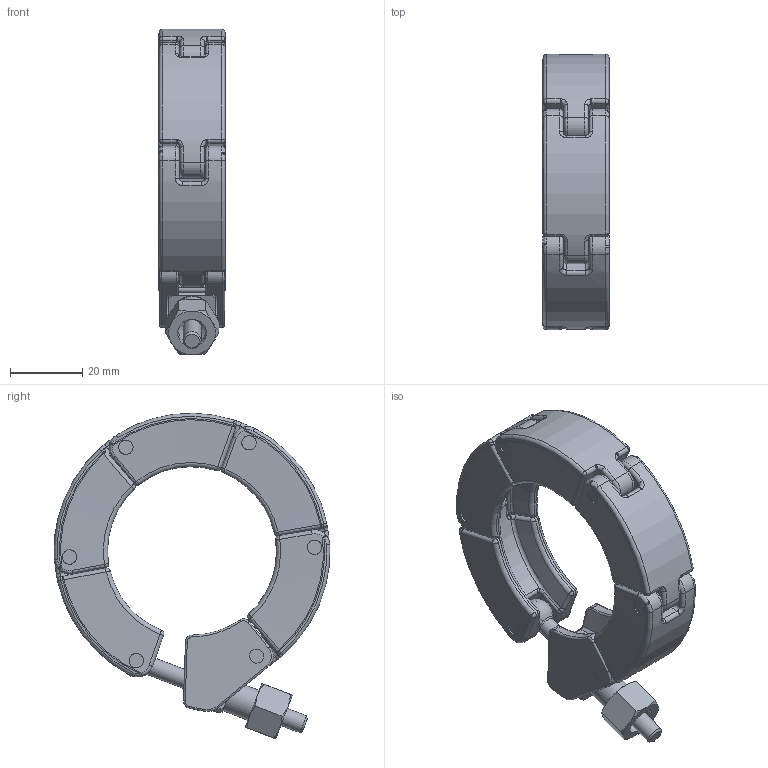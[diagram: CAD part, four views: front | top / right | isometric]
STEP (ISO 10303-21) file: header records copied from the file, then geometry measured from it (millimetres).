
FILE_DESCRIPTION((''),'2;1');
FILE_NAME('W:\14482_Spannketten\KLEINE_Spankette_Definitive\DN_40\M211-023.stp','2013-05-07T14:25:34',('KAA'),(''),'Autodesk Inventor 2012','Autodesk Inventor 2012','');
FILE_SCHEMA(('AUTOMOTIVE_DESIGN { 1 0 10303 214 1 1 1 1 }'));
Length unit declared in the file: millimetre
Products named in the file (1): M211-023
Bounding box: 18.45 x 76.42 x 90.16 mm (x, y, z)
Volume: 40336.4 mm3; surface area: 19108.9 mm2
Topology: 1 solids, 3 shells, 713 faces, 1657 edges, 977 vertices
Faces by surface type: bspline 243, cylinder 168, torus 134, plane 94, cone 51, sphere 23
Full cylindrical faces by diameter (mm): 3.9 x2, 4 x22, 5 x2, 5.5 x1, 6.8 x1, 8 x1, 8.8 x3
Entity records: 30760 total; most frequent: CARTESIAN_POINT 15768, ORIENTED_EDGE 3166, DIRECTION 2537, EDGE_CURVE 1583, AXIS2_PLACEMENT_3D 1119, VERTEX_POINT 945, EDGE_LOOP 800, STYLED_ITEM 714
